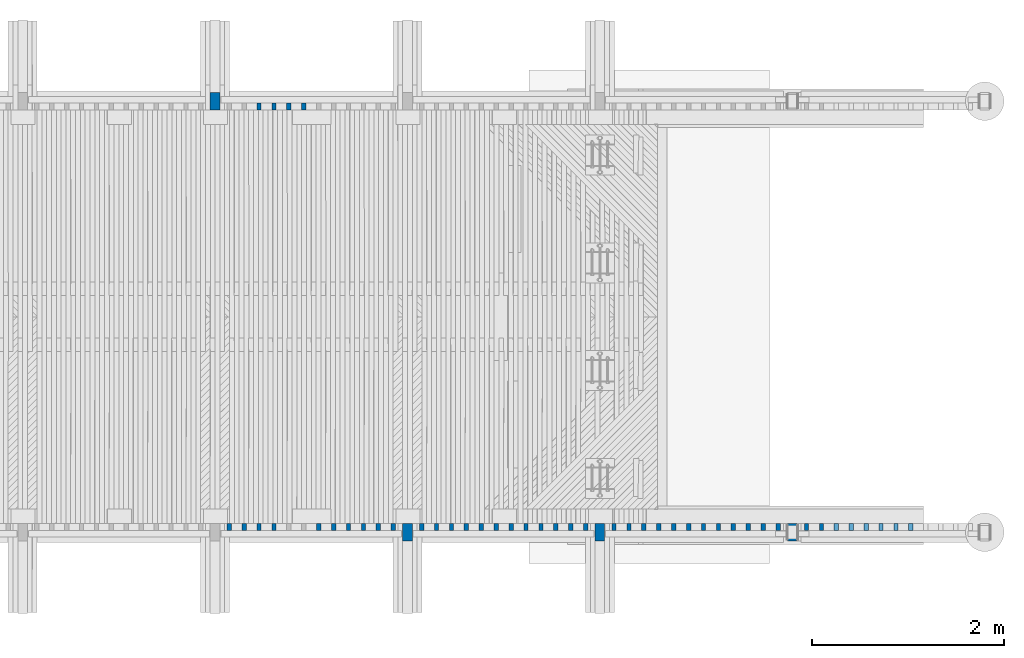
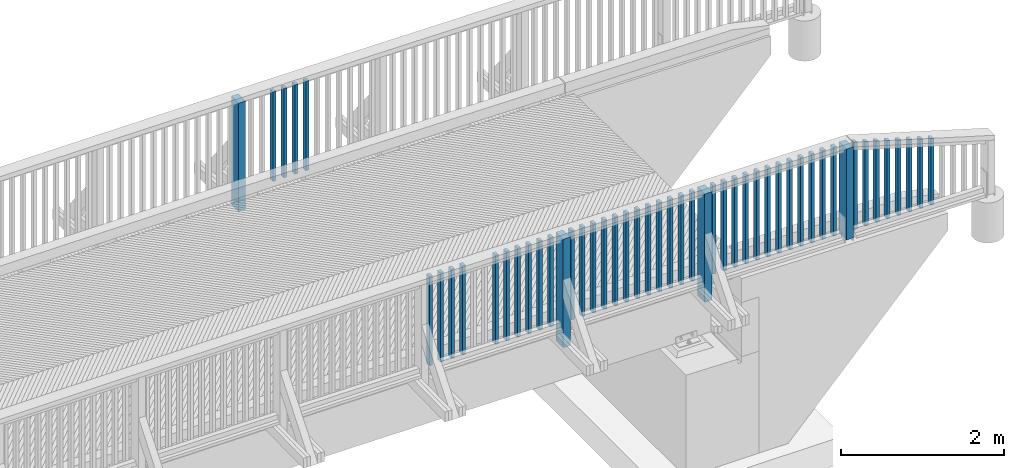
# One storey, part 10 of 53: 50 columns.
"""IFC2X3 building model written with IfcOpenShell, lengths in millimetres."""

from ifc_helpers import new_model, si_unit, frame, origin_with_axes, place, context, subcontext, project, spatial, faceted_brep, material, type_object, element, save


model = new_model("IFC2X3")

# Units and contexts
model_context = context("Model", 3, precision=1e-05, world=origin_with_axes())
body_context = subcontext(model_context, "Body", "Model", "MODEL_VIEW")
ifc_project = project(units=[si_unit("LENGTHUNIT", "METRE", prefix="MILLI"), si_unit("AREAUNIT", "SQUARE_METRE"), si_unit("VOLUMEUNIT", "CUBIC_METRE"), si_unit("MASSUNIT", "GRAM", prefix="KILO"), si_unit("TIMEUNIT", "SECOND"), si_unit("PLANEANGLEUNIT", "RADIAN"), si_unit("SOLIDANGLEUNIT", "STERADIAN"), si_unit("THERMODYNAMICTEMPERATUREUNIT", "DEGREE_CELSIUS"), si_unit("LUMINOUSINTENSITYUNIT", "LUMEN")], contexts=[model_context])

# Site, building, storey
site_placement = place(None, origin_with_axes())
site = spatial("IfcSite", under=ifc_project, at=site_placement, Name="Undefined", CompositionType="ELEMENT")
building_placement = place(site_placement, origin_with_axes())
building = spatial("IfcBuilding", under=site, at=building_placement, Name="Undefined", CompositionType="ELEMENT")
storey_placement = place(building_placement, origin_with_axes())
storey = spatial("IfcBuildingStorey", under=building, at=storey_placement, Name="Undefined", CompositionType="ELEMENT", Elevation=0.0)

# Columns
ifc_material = material(Name="TIMBER/Timber_Undefined")
column_type_1 = type_object("IfcColumnType", Name="180*100", PredefinedType="NOTDEFINED")
column_1_placement = place(storey_placement, frame((17999.9999992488, 40125.0120919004, 3128.38000000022), z_axis=(0.0, 1.0, 0.0), x_axis=(0.0, 0.0, 1.0)))
element("IfcColumn", 1, at=column_1_placement, inside=storey, type_object=column_type_1, material=ifc_material, Name="KAIDEPYLVÄS", ObjectType="180*100", context=body_context, shape_type="Brep", body=[
    faceted_brep([(-5.71000000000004, 50.0, -90.0), (-5.71000000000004, 50.0, 90.0), (1351.21940355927, 50.0, 90.0), (1351.21940355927, 50.0, -90.0), (-5.71000000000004, -50.0, 90.0), (1352.87649222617, -50.0, 90.0), (-5.71000000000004, -50.0, -90.0), (1352.87649222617, -50.0, -90.0)], [[[0, 1, 2, 3]], [[1, 4, 5, 2]], [[4, 6, 7, 5]], [[6, 0, 3, 7]], [[5, 7, 3, 2]], [[6, 4, 1, 0]]]),
])
for number, where, z_axis, x_axis in (
    (2, (12000.0000678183, 44604.9879081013, 2930.03388065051), (0.0, -1.0, 0.0), (0.0, 0.0, 1.0)),
    (3, (16000.0000678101, 40125.0120918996, 2890.26004297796), (0.0, 1.0, 0.0), (0.0, 0.0, 1.0)),
    (4, (14000.0000678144, 40125.0120918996, 2913.4617669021), (0.0, 1.0, 0.0), (0.0, 0.0, 1.0)),
):
    element("IfcColumn", number, at=place(storey_placement, frame(where, z_axis=z_axis, x_axis=x_axis)), inside=storey, type_object=column_type_1, material=ifc_material, Name="KAIDEPYLVÄS", ObjectType="180*100", context=body_context, shape_type="Brep", body=[
        faceted_brep([(0.0, 50.0, -89.9999999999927), (0.0, 50.0, 90.0), (1620.0, 50.0, 90.0), (1620.0, 50.0, -90.0), (0.0, -49.9999999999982, 90.0000000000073), (1620.0, -50.0, 90.0), (-3.63797880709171e-12, -49.9999999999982, -90.0), (1620.0, -50.0, -90.0)], [[[0, 1, 2, 3]], [[1, 4, 5, 2]], [[4, 6, 7, 5]], [[6, 0, 3, 7]], [[5, 7, 3, 2]], [[6, 4, 1, 0]]]),
    ])
column_type_2 = type_object("IfcColumnType", Name="70*45", PredefinedType="NOTDEFINED")
column_2_placement = place(storey_placement, frame((18147.4999992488, 40180.0120919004, 3079.15), z_axis=(0.0, -1.0, 0.0), x_axis=(0.0, 0.0, 1.0)))
element("IfcColumn", 5, at=column_2_placement, inside=storey, type_object=column_type_2, material=ifc_material, Name="BEAM", ObjectType="70*45", context=body_context, shape_type="Brep", body=[
    faceted_brep([(69.4380529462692, 22.5, -35.0), (69.4380529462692, 22.5, 35.0), (1375.94682334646, 22.5, 35.0), (1375.94682334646, 22.5, -35.0), (68.751055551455, -22.5, 35.0), (1362.51131766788, -22.5, 35.0), (68.751055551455, -22.5, -35.0), (1362.51131766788, -22.5, -35.0)], [[[0, 1, 2, 3]], [[1, 4, 5, 2]], [[4, 6, 7, 5]], [[6, 0, 3, 7]], [[5, 7, 3, 2]], [[6, 4, 1, 0]]]),
])
column_3_placement = place(storey_placement, frame((18302.4999992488, 40180.0120919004, 3079.15), z_axis=(0.0, -1.0, 0.0), x_axis=(0.0, 0.0, 1.0)))
element("IfcColumn", 6, at=column_3_placement, inside=storey, type_object=column_type_2, material=ifc_material, Name="BEAM", ObjectType="70*45", context=body_context, shape_type="Brep", body=[
    faceted_brep([(67.0717285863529, 22.5, -35.0), (67.0717285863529, 22.5, 35.0), (1329.66897045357, 22.5, 35.0), (1329.66897045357, 22.5, -35.0), (66.3847311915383, -22.5, 35.0), (1316.23346477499, -22.5, 35.0), (66.3847311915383, -22.5, -35.0), (1316.23346477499, -22.5, -35.0)], [[[0, 1, 2, 3]], [[1, 4, 5, 2]], [[4, 6, 7, 5]], [[6, 0, 3, 7]], [[5, 7, 3, 2]], [[6, 4, 1, 0]]]),
])
column_4_placement = place(storey_placement, frame((18457.4999992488, 40180.0120919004, 3079.15), z_axis=(0.0, -1.0, 0.0), x_axis=(0.0, 0.0, 1.0)))
element("IfcColumn", 7, at=column_4_placement, inside=storey, type_object=column_type_2, material=ifc_material, Name="BEAM", ObjectType="70*45", context=body_context, shape_type="Brep", body=[
    faceted_brep([(64.7054042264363, 22.5, -35.0), (64.7054042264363, 22.5, 35.0), (1283.39111756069, 22.5, 35.0), (1283.39111756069, 22.5, -35.0), (64.0184068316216, -22.5, 35.0), (1269.95561188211, -22.5, 35.0), (64.0184068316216, -22.5, -35.0), (1269.95561188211, -22.5, -35.0)], [[[0, 1, 2, 3]], [[1, 4, 5, 2]], [[4, 6, 7, 5]], [[6, 0, 3, 7]], [[5, 7, 3, 2]], [[6, 4, 1, 0]]]),
])
column_5_placement = place(storey_placement, frame((18612.4999992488, 40180.0120919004, 3079.15), z_axis=(0.0, -1.0, 0.0), x_axis=(0.0, 0.0, 1.0)))
element("IfcColumn", 8, at=column_5_placement, inside=storey, type_object=column_type_2, material=ifc_material, Name="BEAM", ObjectType="70*45", context=body_context, shape_type="Brep", body=[
    faceted_brep([(62.3390798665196, 22.5, -35.0), (62.3390798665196, 22.5, 35.0), (1237.1132646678, 22.5, 35.0), (1237.1132646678, 22.5, -35.0), (61.6520824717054, -22.5, 35.0), (1223.67775898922, -22.5, 35.0), (61.6520824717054, -22.5, -35.0), (1223.67775898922, -22.5, -35.0)], [[[0, 1, 2, 3]], [[1, 4, 5, 2]], [[4, 6, 7, 5]], [[6, 0, 3, 7]], [[5, 7, 3, 2]], [[6, 4, 1, 0]]]),
])
column_6_placement = place(storey_placement, frame((18767.4999992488, 40180.0120919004, 3079.15), z_axis=(0.0, -1.0, 0.0), x_axis=(0.0, 0.0, 1.0)))
element("IfcColumn", 9, at=column_6_placement, inside=storey, type_object=column_type_2, material=ifc_material, Name="BEAM", ObjectType="70*45", context=body_context, shape_type="Brep", body=[
    faceted_brep([(59.9727555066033, 22.5, -35.0), (59.9727555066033, 22.5, 35.0), (1190.83541177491, 22.5, 35.0), (1190.83541177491, 22.5, -35.0), (59.2857581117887, -22.5, 35.0), (1177.39990609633, -22.5, 35.0), (59.2857581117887, -22.5, -35.0), (1177.39990609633, -22.5, -35.0)], [[[0, 1, 2, 3]], [[1, 4, 5, 2]], [[4, 6, 7, 5]], [[6, 0, 3, 7]], [[5, 7, 3, 2]], [[6, 4, 1, 0]]]),
])
column_7_placement = place(storey_placement, frame((18922.4999992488, 40180.0120919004, 3079.15), z_axis=(0.0, -1.0, 0.0), x_axis=(0.0, 0.0, 1.0)))
element("IfcColumn", 10, at=column_7_placement, inside=storey, type_object=column_type_2, material=ifc_material, Name="BEAM", ObjectType="70*45", context=body_context, shape_type="Brep", body=[
    faceted_brep([(57.6064311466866, 22.5, -35.0), (57.6064311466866, 22.5, 35.0), (1144.55755888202, 22.5, 35.0), (1144.55755888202, 22.5, -35.0), (56.9194337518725, -22.5, 35.0), (1131.12205320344, -22.5, 35.0), (56.9194337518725, -22.5, -35.0), (1131.12205320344, -22.5, -35.0)], [[[0, 1, 2, 3]], [[1, 4, 5, 2]], [[4, 6, 7, 5]], [[6, 0, 3, 7]], [[5, 7, 3, 2]], [[6, 4, 1, 0]]]),
])
column_8_placement = place(storey_placement, frame((19077.4999992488, 40180.0120919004, 3079.15), z_axis=(0.0, -1.0, 0.0), x_axis=(0.0, 0.0, 1.0)))
element("IfcColumn", 11, at=column_8_placement, inside=storey, type_object=column_type_2, material=ifc_material, Name="BEAM", ObjectType="70*45", context=body_context, shape_type="Brep", body=[
    faceted_brep([(55.2401067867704, 22.5, -35.0), (55.2401067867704, 22.5, 35.0), (1098.27970598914, 22.5, 35.0), (1098.27970598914, 22.5, -35.0), (54.5531093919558, -22.5, 35.0), (1084.84420031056, -22.5, 35.0), (54.5531093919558, -22.5, -35.0), (1084.84420031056, -22.5, -35.0)], [[[0, 1, 2, 3]], [[1, 4, 5, 2]], [[4, 6, 7, 5]], [[6, 0, 3, 7]], [[5, 7, 3, 2]], [[6, 4, 1, 0]]]),
])
column_9_placement = place(storey_placement, frame((19232.4999992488, 40180.0120919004, 3079.15), z_axis=(0.0, -1.0, 0.0), x_axis=(0.0, 0.0, 1.0)))
element("IfcColumn", 12, at=column_9_placement, inside=storey, type_object=column_type_2, material=ifc_material, Name="BEAM", ObjectType="70*45", context=body_context, shape_type="Brep", body=[
    faceted_brep([(52.8737824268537, 22.5, -35.0), (52.8737824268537, 22.5, 35.0), (1052.00185309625, 22.5, 35.0), (1052.00185309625, 22.5, -35.0), (52.1867850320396, -22.5, 35.0), (1038.56634741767, -22.5, 35.0), (52.1867850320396, -22.5, -35.0), (1038.56634741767, -22.5, -35.0)], [[[0, 1, 2, 3]], [[1, 4, 5, 2]], [[4, 6, 7, 5]], [[6, 0, 3, 7]], [[5, 7, 3, 2]], [[6, 4, 1, 0]]]),
])
column_10_placement = place(storey_placement, frame((16147.4999992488, 40180.0120919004, 3109.68000000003), z_axis=(0.0, -1.0, 0.0), x_axis=(0.0, 0.0, 1.0)))
element("IfcColumn", 13, at=column_10_placement, inside=storey, type_object=column_type_2, material=ifc_material, Name="BEAM", ObjectType="70*45", context=body_context, shape_type="Brep", body=[
    faceted_brep([(69.4380529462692, 22.5, -35.0), (69.4380529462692, 22.5, 35.0), (1399.43805294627, 22.5, 35.0), (1399.43805294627, 22.5, -35.0), (68.751055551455, -22.5, 35.0), (1398.75105555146, -22.5, 35.0), (68.751055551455, -22.5, -35.0), (1398.75105555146, -22.5, -35.0)], [[[0, 1, 2, 3]], [[1, 4, 5, 2]], [[4, 6, 7, 5]], [[6, 0, 3, 7]], [[5, 7, 3, 2]], [[6, 4, 1, 0]]]),
])
column_11_placement = place(storey_placement, frame((16302.4999992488, 40180.0120919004, 3109.68000000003), z_axis=(0.0, -1.0, 0.0), x_axis=(0.0, 0.0, 1.0)))
element("IfcColumn", 14, at=column_11_placement, inside=storey, type_object=column_type_2, material=ifc_material, Name="BEAM", ObjectType="70*45", context=body_context, shape_type="Brep", body=[
    faceted_brep([(67.0717285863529, 22.5, -35.0), (67.0717285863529, 22.5, 35.0), (1397.07172858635, 22.5, 35.0), (1397.07172858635, 22.5, -35.0), (66.3847311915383, -22.5, 35.0), (1396.38473119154, -22.5, 35.0), (66.3847311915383, -22.5, -35.0), (1396.38473119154, -22.5, -35.0)], [[[0, 1, 2, 3]], [[1, 4, 5, 2]], [[4, 6, 7, 5]], [[6, 0, 3, 7]], [[5, 7, 3, 2]], [[6, 4, 1, 0]]]),
])
column_12_placement = place(storey_placement, frame((16457.4999992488, 40180.0120919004, 3109.68000000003), z_axis=(0.0, -1.0, 0.0), x_axis=(0.0, 0.0, 1.0)))
element("IfcColumn", 15, at=column_12_placement, inside=storey, type_object=column_type_2, material=ifc_material, Name="BEAM", ObjectType="70*45", context=body_context, shape_type="Brep", body=[
    faceted_brep([(64.7054042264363, 22.5, -35.0), (64.7054042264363, 22.5, 35.0), (1394.70540422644, 22.5, 35.0), (1394.70540422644, 22.5, -35.0), (64.0184068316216, -22.5, 35.0), (1394.01840683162, -22.5, 35.0), (64.0184068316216, -22.5, -35.0), (1394.01840683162, -22.5, -35.0)], [[[0, 1, 2, 3]], [[1, 4, 5, 2]], [[4, 6, 7, 5]], [[6, 0, 3, 7]], [[5, 7, 3, 2]], [[6, 4, 1, 0]]]),
])
column_13_placement = place(storey_placement, frame((16612.4999992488, 40180.0120919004, 3109.68000000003), z_axis=(0.0, -1.0, 0.0), x_axis=(0.0, 0.0, 1.0)))
element("IfcColumn", 16, at=column_13_placement, inside=storey, type_object=column_type_2, material=ifc_material, Name="BEAM", ObjectType="70*45", context=body_context, shape_type="Brep", body=[
    faceted_brep([(62.3390798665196, 22.5, -35.0), (62.3390798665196, 22.5, 35.0), (1392.33907986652, 22.5, 35.0), (1392.33907986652, 22.5, -35.0), (61.6520824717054, -22.5, 35.0), (1391.65208247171, -22.5, 35.0), (61.6520824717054, -22.5, -35.0), (1391.65208247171, -22.5, -35.0)], [[[0, 1, 2, 3]], [[1, 4, 5, 2]], [[4, 6, 7, 5]], [[6, 0, 3, 7]], [[5, 7, 3, 2]], [[6, 4, 1, 0]]]),
])
column_14_placement = place(storey_placement, frame((16767.4999992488, 40180.0120919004, 3109.68000000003), z_axis=(0.0, -1.0, 0.0), x_axis=(0.0, 0.0, 1.0)))
element("IfcColumn", 17, at=column_14_placement, inside=storey, type_object=column_type_2, material=ifc_material, Name="BEAM", ObjectType="70*45", context=body_context, shape_type="Brep", body=[
    faceted_brep([(59.9727555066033, 22.5, -35.0), (59.9727555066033, 22.5, 35.0), (1389.97275550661, 22.5, 35.0), (1389.97275550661, 22.5, -35.0), (59.2857581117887, -22.5, 35.0), (1389.28575811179, -22.5, 35.0), (59.2857581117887, -22.5, -35.0), (1389.28575811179, -22.5, -35.0)], [[[0, 1, 2, 3]], [[1, 4, 5, 2]], [[4, 6, 7, 5]], [[6, 0, 3, 7]], [[5, 7, 3, 2]], [[6, 4, 1, 0]]]),
])
column_15_placement = place(storey_placement, frame((16922.4999992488, 40180.0120919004, 3109.68000000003), z_axis=(0.0, -1.0, 0.0), x_axis=(0.0, 0.0, 1.0)))
element("IfcColumn", 18, at=column_15_placement, inside=storey, type_object=column_type_2, material=ifc_material, Name="BEAM", ObjectType="70*45", context=body_context, shape_type="Brep", body=[
    faceted_brep([(57.6064311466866, 22.5, -35.0), (57.6064311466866, 22.5, 35.0), (1387.60643114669, 22.5, 35.0), (1387.60643114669, 22.5, -35.0), (56.9194337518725, -22.5, 35.0), (1386.91943375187, -22.5, 35.0), (56.9194337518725, -22.5, -35.0), (1386.91943375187, -22.5, -35.0)], [[[0, 1, 2, 3]], [[1, 4, 5, 2]], [[4, 6, 7, 5]], [[6, 0, 3, 7]], [[5, 7, 3, 2]], [[6, 4, 1, 0]]]),
])
column_16_placement = place(storey_placement, frame((17077.4999992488, 40180.0120919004, 3109.68000000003), z_axis=(0.0, -1.0, 0.0), x_axis=(0.0, 0.0, 1.0)))
element("IfcColumn", 19, at=column_16_placement, inside=storey, type_object=column_type_2, material=ifc_material, Name="BEAM", ObjectType="70*45", context=body_context, shape_type="Brep", body=[
    faceted_brep([(55.2401067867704, 22.5, -35.0), (55.2401067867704, 22.5, 35.0), (1385.24010678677, 22.5, 35.0), (1385.24010678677, 22.5, -35.0), (54.5531093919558, -22.5, 35.0), (1384.55310939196, -22.5, 35.0), (54.5531093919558, -22.5, -35.0), (1384.55310939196, -22.5, -35.0)], [[[0, 1, 2, 3]], [[1, 4, 5, 2]], [[4, 6, 7, 5]], [[6, 0, 3, 7]], [[5, 7, 3, 2]], [[6, 4, 1, 0]]]),
])
column_17_placement = place(storey_placement, frame((17232.4999992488, 40180.0120919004, 3109.68000000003), z_axis=(0.0, -1.0, 0.0), x_axis=(0.0, 0.0, 1.0)))
element("IfcColumn", 20, at=column_17_placement, inside=storey, type_object=column_type_2, material=ifc_material, Name="BEAM", ObjectType="70*45", context=body_context, shape_type="Brep", body=[
    faceted_brep([(52.8737824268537, 22.5, -35.0), (52.8737824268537, 22.5, 35.0), (1382.87378242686, 22.5, 35.0), (1382.87378242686, 22.5, -35.0), (52.1867850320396, -22.5, 35.0), (1382.18678503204, -22.5, 35.0), (52.1867850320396, -22.5, -35.0), (1382.18678503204, -22.5, -35.0)], [[[0, 1, 2, 3]], [[1, 4, 5, 2]], [[4, 6, 7, 5]], [[6, 0, 3, 7]], [[5, 7, 3, 2]], [[6, 4, 1, 0]]]),
])
column_18_placement = place(storey_placement, frame((17387.4999992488, 40180.0120919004, 3109.68000000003), z_axis=(0.0, -1.0, 0.0), x_axis=(0.0, 0.0, 1.0)))
element("IfcColumn", 21, at=column_18_placement, inside=storey, type_object=column_type_2, material=ifc_material, Name="BEAM", ObjectType="70*45", context=body_context, shape_type="Brep", body=[
    faceted_brep([(50.5074580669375, 22.5, -35.0), (50.5074580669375, 22.5, 35.0), (1380.50745806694, 22.5, 35.0), (1380.50745806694, 22.5, -35.0), (49.8204606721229, -22.5, 35.0), (1379.82046067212, -22.5, 35.0), (49.8204606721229, -22.5, -35.0), (1379.82046067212, -22.5, -35.0)], [[[0, 1, 2, 3]], [[1, 4, 5, 2]], [[4, 6, 7, 5]], [[6, 0, 3, 7]], [[5, 7, 3, 2]], [[6, 4, 1, 0]]]),
])
column_19_placement = place(storey_placement, frame((17542.4999992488, 40180.0120919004, 3109.68000000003), z_axis=(0.0, -1.0, 0.0), x_axis=(0.0, 0.0, 1.0)))
element("IfcColumn", 22, at=column_19_placement, inside=storey, type_object=column_type_2, material=ifc_material, Name="BEAM", ObjectType="70*45", context=body_context, shape_type="Brep", body=[
    faceted_brep([(48.1411337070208, 22.5, -35.0), (48.1411337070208, 22.5, 35.0), (1378.14113370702, 22.5, 35.0), (1378.14113370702, 22.5, -35.0), (47.4541363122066, -22.5, 35.0), (1377.45413631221, -22.5, 35.0), (47.4541363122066, -22.5, -35.0), (1377.45413631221, -22.5, -35.0)], [[[0, 1, 2, 3]], [[1, 4, 5, 2]], [[4, 6, 7, 5]], [[6, 0, 3, 7]], [[5, 7, 3, 2]], [[6, 4, 1, 0]]]),
])
column_20_placement = place(storey_placement, frame((17697.4999992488, 40180.0120919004, 3109.68000000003), z_axis=(0.0, -1.0, 0.0), x_axis=(0.0, 0.0, 1.0)))
element("IfcColumn", 23, at=column_20_placement, inside=storey, type_object=column_type_2, material=ifc_material, Name="BEAM", ObjectType="70*45", context=body_context, shape_type="Brep", body=[
    faceted_brep([(45.7748093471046, 22.5, -35.0), (45.7748093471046, 22.5, 35.0), (1375.77480934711, 22.5, 35.0), (1375.77480934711, 22.5, -35.0), (45.0878119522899, -22.5, 35.0), (1375.08781195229, -22.5, 35.0), (45.0878119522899, -22.5, -35.0), (1375.08781195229, -22.5, -35.0)], [[[0, 1, 2, 3]], [[1, 4, 5, 2]], [[4, 6, 7, 5]], [[6, 0, 3, 7]], [[5, 7, 3, 2]], [[6, 4, 1, 0]]]),
])
column_21_placement = place(storey_placement, frame((17852.4999992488, 40180.0120919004, 3109.68000000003), z_axis=(0.0, -1.0, 0.0), x_axis=(0.0, 0.0, 1.0)))
element("IfcColumn", 24, at=column_21_placement, inside=storey, type_object=column_type_2, material=ifc_material, Name="BEAM", ObjectType="70*45", context=body_context, shape_type="Brep", body=[
    faceted_brep([(43.4084849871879, 22.5, -35.0), (43.4084849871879, 22.5, 35.0), (1373.40848498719, 22.5, 35.0), (1373.40848498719, 22.5, -35.0), (42.7214875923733, -22.5, 35.0), (1372.72148759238, -22.5, 35.0), (42.7214875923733, -22.5, -35.0), (1372.72148759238, -22.5, -35.0)], [[[0, 1, 2, 3]], [[1, 4, 5, 2]], [[4, 6, 7, 5]], [[6, 0, 3, 7]], [[5, 7, 3, 2]], [[6, 4, 1, 0]]]),
])
column_22_placement = place(storey_placement, frame((12922.5000007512, 44549.9879080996, 3109.68000000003), z_axis=(0.0, 1.0, 0.0), x_axis=(0.0, 0.0, 1.0)))
element("IfcColumn", 25, at=column_22_placement, inside=storey, type_object=column_type_2, material=ifc_material, Name="BEAM", ObjectType="70*45", context=body_context, shape_type="Brep", body=[
    faceted_brep([(97.5448810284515, 22.5, -35.0), (97.5448810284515, 22.5, 35.0), (1432.54754364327, 22.5, 35.0), (1432.54754364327, 22.5, -35.0), (97.9373784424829, -22.5, 35.0), (1432.9400410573, -22.5, 35.0), (97.9373784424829, -22.5, -35.0), (1432.9400410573, -22.5, -35.0)], [[[0, 1, 2, 3]], [[1, 4, 5, 2]], [[4, 6, 7, 5]], [[6, 0, 3, 7]], [[5, 7, 3, 2]], [[6, 4, 1, 0]]]),
])
column_23_placement = place(storey_placement, frame((12767.5000007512, 44549.9879080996, 3109.68000000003), z_axis=(0.0, 1.0, 0.0), x_axis=(0.0, 0.0, 1.0)))
element("IfcColumn", 26, at=column_23_placement, inside=storey, type_object=column_type_2, material=ifc_material, Name="BEAM", ObjectType="70*45", context=body_context, shape_type="Brep", body=[
    faceted_brep([(98.8968165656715, 22.5, -35.0), (98.8968165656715, 22.5, 35.0), (1433.89947918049, 22.5, 35.0), (1433.89947918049, 22.5, -35.0), (99.2893139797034, -22.5, 35.0), (1434.29197659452, -22.5, 35.0), (99.2893139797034, -22.5, -35.0), (1434.29197659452, -22.5, -35.0)], [[[0, 1, 2, 3]], [[1, 4, 5, 2]], [[4, 6, 7, 5]], [[6, 0, 3, 7]], [[5, 7, 3, 2]], [[6, 4, 1, 0]]]),
])
column_24_placement = place(storey_placement, frame((12612.5000007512, 44549.9879080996, 3109.68000000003), z_axis=(0.0, 1.0, 0.0), x_axis=(0.0, 0.0, 1.0)))
element("IfcColumn", 27, at=column_24_placement, inside=storey, type_object=column_type_2, material=ifc_material, Name="BEAM", ObjectType="70*45", context=body_context, shape_type="Brep", body=[
    faceted_brep([(100.248752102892, 22.5, -35.0), (100.248752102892, 22.5, 35.0), (1435.25141471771, 22.5, 35.0), (1435.25141471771, 22.5, -35.0), (100.641249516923, -22.5, 35.0), (1435.64391213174, -22.5, 35.0), (100.641249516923, -22.5, -35.0), (1435.64391213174, -22.5, -35.0)], [[[0, 1, 2, 3]], [[1, 4, 5, 2]], [[4, 6, 7, 5]], [[6, 0, 3, 7]], [[5, 7, 3, 2]], [[6, 4, 1, 0]]]),
])
column_25_placement = place(storey_placement, frame((12457.5000007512, 44549.9879080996, 3109.68000000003), z_axis=(0.0, 1.0, 0.0), x_axis=(0.0, 0.0, 1.0)))
element("IfcColumn", 28, at=column_25_placement, inside=storey, type_object=column_type_2, material=ifc_material, Name="BEAM", ObjectType="70*45", context=body_context, shape_type="Brep", body=[
    faceted_brep([(101.600687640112, 22.5, -35.0), (101.600687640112, 22.5, 35.0), (1436.60335025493, 22.5, 35.0), (1436.60335025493, 22.5, -35.0), (101.993185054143, -22.5, 35.0), (1436.99584766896, -22.5, 35.0), (101.993185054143, -22.5, -35.0), (1436.99584766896, -22.5, -35.0)], [[[0, 1, 2, 3]], [[1, 4, 5, 2]], [[4, 6, 7, 5]], [[6, 0, 3, 7]], [[5, 7, 3, 2]], [[6, 4, 1, 0]]]),
])
column_26_placement = place(storey_placement, frame((15852.5000007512, 40180.0120919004, 3109.68000000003), z_axis=(0.0, -1.0, 0.0), x_axis=(0.0, 0.0, 1.0)))
element("IfcColumn", 29, at=column_26_placement, inside=storey, type_object=column_type_2, material=ifc_material, Name="BEAM", ObjectType="70*45", context=body_context, shape_type="Brep", body=[
    faceted_brep([(67.040197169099, 22.5, -35.0), (67.040197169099, 22.5, 35.0), (1402.04537438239, 22.5, 35.0), (1402.04537438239, 22.5, -35.0), (66.4906826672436, -22.5, 35.0), (1401.49585889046, -22.5, 35.0), (66.4906826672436, -22.5, -35.0), (1401.49585889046, -22.5, -35.0)], [[[0, 1, 2, 3]], [[1, 4, 5, 2]], [[4, 6, 7, 5]], [[6, 0, 3, 7]], [[5, 7, 3, 2]], [[6, 4, 1, 0]]]),
])
column_27_placement = place(storey_placement, frame((15697.5000007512, 40180.0120919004, 3109.68000000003), z_axis=(0.0, -1.0, 0.0), x_axis=(0.0, 0.0, 1.0)))
element("IfcColumn", 30, at=column_27_placement, inside=storey, type_object=column_type_2, material=ifc_material, Name="BEAM", ObjectType="70*45", context=body_context, shape_type="Brep", body=[
    faceted_brep([(68.9329693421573, 22.5, -35.0), (68.9329693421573, 22.5, 35.0), (1403.9381499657, 22.5, 35.0), (1403.9381499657, 22.5, -35.0), (68.383454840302, -22.5, 35.0), (1403.38863447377, -22.5, 35.0), (68.383454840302, -22.5, -35.0), (1403.38863447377, -22.5, -35.0)], [[[0, 1, 2, 3]], [[1, 4, 5, 2]], [[4, 6, 7, 5]], [[6, 0, 3, 7]], [[5, 7, 3, 2]], [[6, 4, 1, 0]]]),
])
column_28_placement = place(storey_placement, frame((15542.5000007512, 40180.0120919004, 3109.68000000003), z_axis=(0.0, -1.0, 0.0), x_axis=(0.0, 0.0, 1.0)))
element("IfcColumn", 31, at=column_28_placement, inside=storey, type_object=column_type_2, material=ifc_material, Name="BEAM", ObjectType="70*45", context=body_context, shape_type="Brep", body=[
    faceted_brep([(70.8257415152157, 22.5, -35.0), (70.8257415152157, 22.5, 35.0), (1405.83092554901, 22.5, 35.0), (1405.83092554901, 22.5, -35.0), (70.2762270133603, -22.5, 35.0), (1405.28141005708, -22.5, 35.0), (70.2762270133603, -22.5, -35.0), (1405.28141005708, -22.5, -35.0)], [[[0, 1, 2, 3]], [[1, 4, 5, 2]], [[4, 6, 7, 5]], [[6, 0, 3, 7]], [[5, 7, 3, 2]], [[6, 4, 1, 0]]]),
])
column_29_placement = place(storey_placement, frame((15387.5000007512, 40180.0120919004, 3109.68000000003), z_axis=(0.0, -1.0, 0.0), x_axis=(0.0, 0.0, 1.0)))
element("IfcColumn", 32, at=column_29_placement, inside=storey, type_object=column_type_2, material=ifc_material, Name="BEAM", ObjectType="70*45", context=body_context, shape_type="Brep", body=[
    faceted_brep([(72.718513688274, 22.5, -35.0), (72.718513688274, 22.5, 35.0), (1407.72370113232, 22.5, 35.0), (1407.72370113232, 22.5, -35.0), (72.1689991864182, -22.5, 35.0), (1407.17418564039, -22.5, 35.0), (72.1689991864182, -22.5, -35.0), (1407.17418564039, -22.5, -35.0)], [[[0, 1, 2, 3]], [[1, 4, 5, 2]], [[4, 6, 7, 5]], [[6, 0, 3, 7]], [[5, 7, 3, 2]], [[6, 4, 1, 0]]]),
])
column_30_placement = place(storey_placement, frame((15232.5000007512, 40180.0120919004, 3109.68000000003), z_axis=(0.0, -1.0, 0.0), x_axis=(0.0, 0.0, 1.0)))
element("IfcColumn", 33, at=column_30_placement, inside=storey, type_object=column_type_2, material=ifc_material, Name="BEAM", ObjectType="70*45", context=body_context, shape_type="Brep", body=[
    faceted_brep([(74.6112858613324, 22.5, -35.0), (74.6112858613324, 22.5, 35.0), (1409.61647671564, 22.5, 35.0), (1409.61647671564, 22.5, -35.0), (74.0617713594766, -22.5, 35.0), (1409.06696122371, -22.5, 35.0), (74.0617713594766, -22.5, -35.0), (1409.06696122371, -22.5, -35.0)], [[[0, 1, 2, 3]], [[1, 4, 5, 2]], [[4, 6, 7, 5]], [[6, 0, 3, 7]], [[5, 7, 3, 2]], [[6, 4, 1, 0]]]),
])
column_31_placement = place(storey_placement, frame((15077.5000007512, 40180.0120919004, 3109.68000000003), z_axis=(0.0, -1.0, 0.0), x_axis=(0.0, 0.0, 1.0)))
element("IfcColumn", 34, at=column_31_placement, inside=storey, type_object=column_type_2, material=ifc_material, Name="BEAM", ObjectType="70*45", context=body_context, shape_type="Brep", body=[
    faceted_brep([(76.5040580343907, 22.5, -35.0), (76.5040580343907, 22.5, 35.0), (1411.50925229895, 22.5, 35.0), (1411.50925229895, 22.5, -35.0), (75.9545435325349, -22.5, 35.0), (1410.95973680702, -22.5, 35.0), (75.9545435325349, -22.5, -35.0), (1410.95973680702, -22.5, -35.0)], [[[0, 1, 2, 3]], [[1, 4, 5, 2]], [[4, 6, 7, 5]], [[6, 0, 3, 7]], [[5, 7, 3, 2]], [[6, 4, 1, 0]]]),
])
column_32_placement = place(storey_placement, frame((14922.5000007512, 40180.0120919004, 3109.68000000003), z_axis=(0.0, -1.0, 0.0), x_axis=(0.0, 0.0, 1.0)))
element("IfcColumn", 35, at=column_32_placement, inside=storey, type_object=column_type_2, material=ifc_material, Name="BEAM", ObjectType="70*45", context=body_context, shape_type="Brep", body=[
    faceted_brep([(78.3968302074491, 22.5, -35.0), (78.3968302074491, 22.5, 35.0), (1413.40202788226, 22.5, 35.0), (1413.40202788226, 22.5, -35.0), (77.8473157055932, -22.5, 35.0), (1412.85251239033, -22.5, 35.0), (77.8473157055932, -22.5, -35.0), (1412.85251239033, -22.5, -35.0)], [[[0, 1, 2, 3]], [[1, 4, 5, 2]], [[4, 6, 7, 5]], [[6, 0, 3, 7]], [[5, 7, 3, 2]], [[6, 4, 1, 0]]]),
])
column_33_placement = place(storey_placement, frame((14767.5000007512, 40180.0120919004, 3109.68000000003), z_axis=(0.0, -1.0, 0.0), x_axis=(0.0, 0.0, 1.0)))
element("IfcColumn", 36, at=column_33_placement, inside=storey, type_object=column_type_2, material=ifc_material, Name="BEAM", ObjectType="70*45", context=body_context, shape_type="Brep", body=[
    faceted_brep([(80.2896023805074, 22.5, -35.0), (80.2896023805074, 22.5, 35.0), (1415.29480346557, 22.5, 35.0), (1415.29480346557, 22.5, -35.0), (79.7400878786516, -22.5, 35.0), (1414.74528797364, -22.5, 35.0), (79.7400878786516, -22.5, -35.0), (1414.74528797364, -22.5, -35.0)], [[[0, 1, 2, 3]], [[1, 4, 5, 2]], [[4, 6, 7, 5]], [[6, 0, 3, 7]], [[5, 7, 3, 2]], [[6, 4, 1, 0]]]),
])
column_34_placement = place(storey_placement, frame((14612.5000007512, 40180.0120919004, 3109.68000000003), z_axis=(0.0, -1.0, 0.0), x_axis=(0.0, 0.0, 1.0)))
element("IfcColumn", 37, at=column_34_placement, inside=storey, type_object=column_type_2, material=ifc_material, Name="BEAM", ObjectType="70*45", context=body_context, shape_type="Brep", body=[
    faceted_brep([(82.1823745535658, 22.5, -35.0), (82.1823745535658, 22.5, 35.0), (1417.18757904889, 22.5, 35.0), (1417.18757904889, 22.5, -35.0), (81.6328600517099, -22.5, 35.0), (1416.63806355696, -22.5, 35.0), (81.6328600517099, -22.5, -35.0), (1416.63806355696, -22.5, -35.0)], [[[0, 1, 2, 3]], [[1, 4, 5, 2]], [[4, 6, 7, 5]], [[6, 0, 3, 7]], [[5, 7, 3, 2]], [[6, 4, 1, 0]]]),
])
column_35_placement = place(storey_placement, frame((14457.5000007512, 40180.0120919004, 3109.68000000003), z_axis=(0.0, -1.0, 0.0), x_axis=(0.0, 0.0, 1.0)))
element("IfcColumn", 38, at=column_35_placement, inside=storey, type_object=column_type_2, material=ifc_material, Name="BEAM", ObjectType="70*45", context=body_context, shape_type="Brep", body=[
    faceted_brep([(84.0751467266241, 22.5, -35.0), (84.0751467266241, 22.5, 35.0), (1419.0803546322, 22.5, 35.0), (1419.0803546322, 22.5, -35.0), (83.5256322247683, -22.5, 35.0), (1418.53083914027, -22.5, 35.0), (83.5256322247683, -22.5, -35.0), (1418.53083914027, -22.5, -35.0)], [[[0, 1, 2, 3]], [[1, 4, 5, 2]], [[4, 6, 7, 5]], [[6, 0, 3, 7]], [[5, 7, 3, 2]], [[6, 4, 1, 0]]]),
])
column_36_placement = place(storey_placement, frame((14302.5000007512, 40180.0120919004, 3109.68000000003), z_axis=(0.0, -1.0, 0.0), x_axis=(0.0, 0.0, 1.0)))
element("IfcColumn", 39, at=column_36_placement, inside=storey, type_object=column_type_2, material=ifc_material, Name="BEAM", ObjectType="70*45", context=body_context, shape_type="Brep", body=[
    faceted_brep([(85.967918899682, 22.5, -35.0), (85.967918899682, 22.5, 35.0), (1420.97313021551, 22.5, 35.0), (1420.97313021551, 22.5, -35.0), (85.4184043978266, -22.5, 35.0), (1420.42361472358, -22.5, 35.0), (85.4184043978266, -22.5, -35.0), (1420.42361472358, -22.5, -35.0)], [[[0, 1, 2, 3]], [[1, 4, 5, 2]], [[4, 6, 7, 5]], [[6, 0, 3, 7]], [[5, 7, 3, 2]], [[6, 4, 1, 0]]]),
])
column_37_placement = place(storey_placement, frame((14147.5000007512, 40180.0120919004, 3109.68000000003), z_axis=(0.0, -1.0, 0.0), x_axis=(0.0, 0.0, 1.0)))
element("IfcColumn", 40, at=column_37_placement, inside=storey, type_object=column_type_2, material=ifc_material, Name="BEAM", ObjectType="70*45", context=body_context, shape_type="Brep", body=[
    faceted_brep([(87.8606910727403, 22.5, -35.0), (87.8606910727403, 22.5, 35.0), (1422.86590579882, 22.5, 35.0), (1422.86590579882, 22.5, -35.0), (87.311176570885, -22.5, 35.0), (1422.31639030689, -22.5, 35.0), (87.311176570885, -22.5, -35.0), (1422.31639030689, -22.5, -35.0)], [[[0, 1, 2, 3]], [[1, 4, 5, 2]], [[4, 6, 7, 5]], [[6, 0, 3, 7]], [[5, 7, 3, 2]], [[6, 4, 1, 0]]]),
])
column_38_placement = place(storey_placement, frame((13852.5000007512, 40180.0120919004, 3109.68000000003), z_axis=(0.0, -1.0, 0.0), x_axis=(0.0, 0.0, 1.0)))
element("IfcColumn", 41, at=column_38_placement, inside=storey, type_object=column_type_2, material=ifc_material, Name="BEAM", ObjectType="70*45", context=body_context, shape_type="Brep", body=[
    faceted_brep([(89.8257652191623, 22.5, -35.0), (89.8257652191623, 22.5, 35.0), (1424.82842595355, 22.5, 35.0), (1424.82842595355, 22.5, -35.0), (89.4332678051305, -22.5, 35.0), (1424.43592853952, -22.5, 35.0), (89.4332678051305, -22.5, -35.0), (1424.43592853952, -22.5, -35.0)], [[[0, 1, 2, 3]], [[1, 4, 5, 2]], [[4, 6, 7, 5]], [[6, 0, 3, 7]], [[5, 7, 3, 2]], [[6, 4, 1, 0]]]),
])
column_39_placement = place(storey_placement, frame((13697.5000007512, 40180.0120919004, 3109.68000000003), z_axis=(0.0, -1.0, 0.0), x_axis=(0.0, 0.0, 1.0)))
element("IfcColumn", 42, at=column_39_placement, inside=storey, type_object=column_type_2, material=ifc_material, Name="BEAM", ObjectType="70*45", context=body_context, shape_type="Brep", body=[
    faceted_brep([(91.1777007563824, 22.5, -35.0), (91.1777007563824, 22.5, 35.0), (1426.18036149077, 22.5, 35.0), (1426.18036149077, 22.5, -35.0), (90.7852033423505, -22.5, 35.0), (1425.78786407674, -22.5, 35.0), (90.7852033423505, -22.5, -35.0), (1425.78786407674, -22.5, -35.0)], [[[0, 1, 2, 3]], [[1, 4, 5, 2]], [[4, 6, 7, 5]], [[6, 0, 3, 7]], [[5, 7, 3, 2]], [[6, 4, 1, 0]]]),
])
column_40_placement = place(storey_placement, frame((13542.5000007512, 40180.0120919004, 3109.68000000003), z_axis=(0.0, -1.0, 0.0), x_axis=(0.0, 0.0, 1.0)))
element("IfcColumn", 43, at=column_40_placement, inside=storey, type_object=column_type_2, material=ifc_material, Name="BEAM", ObjectType="70*45", context=body_context, shape_type="Brep", body=[
    faceted_brep([(92.5296362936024, 22.5, -35.0), (92.5296362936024, 22.5, 35.0), (1427.53229702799, 22.5, 35.0), (1427.53229702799, 22.5, -35.0), (92.1371388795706, -22.5, 35.0), (1427.13979961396, -22.5, 35.0), (92.1371388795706, -22.5, -35.0), (1427.13979961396, -22.5, -35.0)], [[[0, 1, 2, 3]], [[1, 4, 5, 2]], [[4, 6, 7, 5]], [[6, 0, 3, 7]], [[5, 7, 3, 2]], [[6, 4, 1, 0]]]),
])
column_41_placement = place(storey_placement, frame((13387.5000007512, 40180.0120919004, 3109.68000000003), z_axis=(0.0, -1.0, 0.0), x_axis=(0.0, 0.0, 1.0)))
element("IfcColumn", 44, at=column_41_placement, inside=storey, type_object=column_type_2, material=ifc_material, Name="BEAM", ObjectType="70*45", context=body_context, shape_type="Brep", body=[
    faceted_brep([(93.8815718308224, 22.5, -35.0), (93.8815718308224, 22.5, 35.0), (1428.88423256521, 22.5, 35.0), (1428.88423256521, 22.5, -35.0), (93.489074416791, -22.5, 35.0), (1428.49173515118, -22.5, 35.0), (93.489074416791, -22.5, -35.0), (1428.49173515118, -22.5, -35.0)], [[[0, 1, 2, 3]], [[1, 4, 5, 2]], [[4, 6, 7, 5]], [[6, 0, 3, 7]], [[5, 7, 3, 2]], [[6, 4, 1, 0]]]),
])
column_42_placement = place(storey_placement, frame((13232.5000007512, 40180.0120919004, 3109.68000000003), z_axis=(0.0, -1.0, 0.0), x_axis=(0.0, 0.0, 1.0)))
element("IfcColumn", 45, at=column_42_placement, inside=storey, type_object=column_type_2, material=ifc_material, Name="BEAM", ObjectType="70*45", context=body_context, shape_type="Brep", body=[
    faceted_brep([(95.2335073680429, 22.5, -35.0), (95.2335073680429, 22.5, 35.0), (1430.23616810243, 22.5, 35.0), (1430.23616810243, 22.5, -35.0), (94.841009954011, -22.5, 35.0), (1429.8436706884, -22.5, 35.0), (94.841009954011, -22.5, -35.0), (1429.8436706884, -22.5, -35.0)], [[[0, 1, 2, 3]], [[1, 4, 5, 2]], [[4, 6, 7, 5]], [[6, 0, 3, 7]], [[5, 7, 3, 2]], [[6, 4, 1, 0]]]),
])
column_43_placement = place(storey_placement, frame((13077.5000007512, 40180.0120919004, 3109.68000000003), z_axis=(0.0, -1.0, 0.0), x_axis=(0.0, 0.0, 1.0)))
element("IfcColumn", 46, at=column_43_placement, inside=storey, type_object=column_type_2, material=ifc_material, Name="BEAM", ObjectType="70*45", context=body_context, shape_type="Brep", body=[
    faceted_brep([(96.5854429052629, 22.5, -35.0), (96.5854429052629, 22.5, 35.0), (1431.58810363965, 22.5, 35.0), (1431.58810363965, 22.5, -35.0), (96.1929454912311, -22.5, 35.0), (1431.19560622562, -22.5, 35.0), (96.1929454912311, -22.5, -35.0), (1431.19560622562, -22.5, -35.0)], [[[0, 1, 2, 3]], [[1, 4, 5, 2]], [[4, 6, 7, 5]], [[6, 0, 3, 7]], [[5, 7, 3, 2]], [[6, 4, 1, 0]]]),
])
column_44_placement = place(storey_placement, frame((12612.5000007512, 40180.0120919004, 3109.68000000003), z_axis=(0.0, -1.0, 0.0), x_axis=(0.0, 0.0, 1.0)))
element("IfcColumn", 47, at=column_44_placement, inside=storey, type_object=column_type_2, material=ifc_material, Name="BEAM", ObjectType="70*45", context=body_context, shape_type="Brep", body=[
    faceted_brep([(100.641249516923, 22.5, -35.0), (100.641249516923, 22.5, 35.0), (1435.64391025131, 22.5, 35.0), (1435.64391025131, 22.5, -35.0), (100.248752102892, -22.5, 35.0), (1435.25141283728, -22.5, 35.0), (100.248752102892, -22.5, -35.0), (1435.25141283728, -22.5, -35.0)], [[[0, 1, 2, 3]], [[1, 4, 5, 2]], [[4, 6, 7, 5]], [[6, 0, 3, 7]], [[5, 7, 3, 2]], [[6, 4, 1, 0]]]),
])
column_45_placement = place(storey_placement, frame((12457.5000007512, 40180.0120919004, 3109.68000000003), z_axis=(0.0, -1.0, 0.0), x_axis=(0.0, 0.0, 1.0)))
element("IfcColumn", 48, at=column_45_placement, inside=storey, type_object=column_type_2, material=ifc_material, Name="BEAM", ObjectType="70*45", context=body_context, shape_type="Brep", body=[
    faceted_brep([(101.993185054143, 22.5, -35.0), (101.993185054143, 22.5, 35.0), (1436.99584578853, 22.5, 35.0), (1436.99584578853, 22.5, -35.0), (101.600687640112, -22.5, 35.0), (1436.6033483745, -22.5, 35.0), (101.600687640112, -22.5, -35.0), (1436.6033483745, -22.5, -35.0)], [[[0, 1, 2, 3]], [[1, 4, 5, 2]], [[4, 6, 7, 5]], [[6, 0, 3, 7]], [[5, 7, 3, 2]], [[6, 4, 1, 0]]]),
])
column_46_placement = place(storey_placement, frame((12302.5000007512, 40180.0120919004, 3109.68000000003), z_axis=(0.0, -1.0, 0.0), x_axis=(0.0, 0.0, 1.0)))
element("IfcColumn", 49, at=column_46_placement, inside=storey, type_object=column_type_2, material=ifc_material, Name="BEAM", ObjectType="70*45", context=body_context, shape_type="Brep", body=[
    faceted_brep([(103.345120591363, 22.5, -35.0), (103.345120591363, 22.5, 35.0), (1438.34778132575, 22.5, 35.0), (1438.34778132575, 22.5, -35.0), (102.952623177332, -22.5, 35.0), (1437.95528391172, -22.5, 35.0), (102.952623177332, -22.5, -35.0), (1437.95528391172, -22.5, -35.0)], [[[0, 1, 2, 3]], [[1, 4, 5, 2]], [[4, 6, 7, 5]], [[6, 0, 3, 7]], [[5, 7, 3, 2]], [[6, 4, 1, 0]]]),
])
column_47_placement = place(storey_placement, frame((12147.5000007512, 40180.0120919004, 3109.68000000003), z_axis=(0.0, -1.0, 0.0), x_axis=(0.0, 0.0, 1.0)))
element("IfcColumn", 50, at=column_47_placement, inside=storey, type_object=column_type_2, material=ifc_material, Name="BEAM", ObjectType="70*45", context=body_context, shape_type="Brep", body=[
    faceted_brep([(104.697056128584, 22.5, -35.0), (104.697056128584, 22.5, 35.0), (1439.69971686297, 22.5, 35.0), (1439.69971686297, 22.5, -35.0), (104.304558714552, -22.5, 35.0), (1439.30721944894, -22.5, 35.0), (104.304558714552, -22.5, -35.0), (1439.30721944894, -22.5, -35.0)], [[[0, 1, 2, 3]], [[1, 4, 5, 2]], [[4, 6, 7, 5]], [[6, 0, 3, 7]], [[5, 7, 3, 2]], [[6, 4, 1, 0]]]),
])

save(model, "model.ifc")
